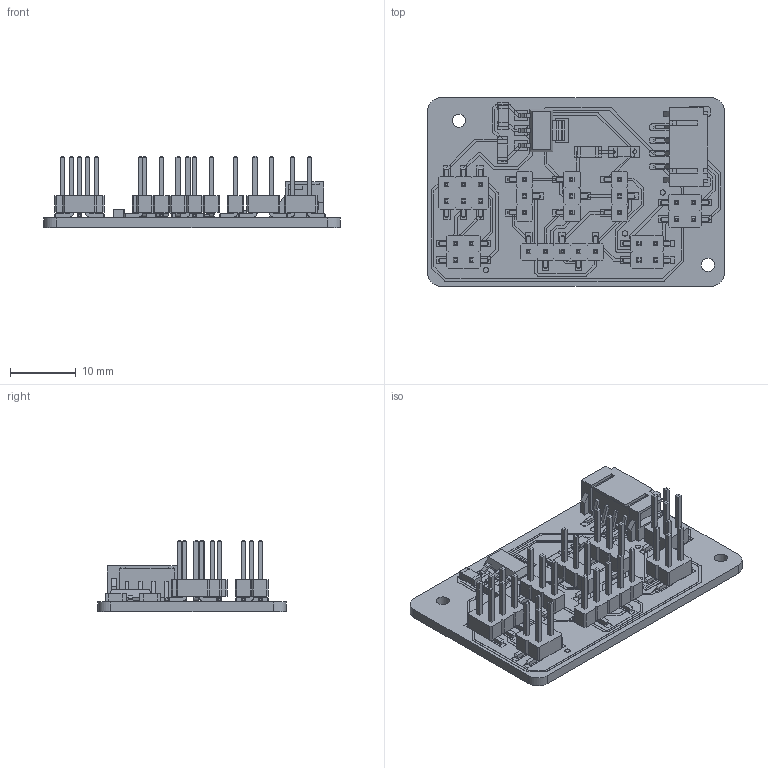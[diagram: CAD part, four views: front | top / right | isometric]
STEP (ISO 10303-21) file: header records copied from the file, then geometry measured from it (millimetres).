
FILE_DESCRIPTION(('KiCad electronic assembly'),'2;1');
FILE_NAME('Final_Project_Top_Board.step','2025-05-19T22:23:51',('Pcbnew' ),('Kicad'),'Open CASCADE STEP processor 7.8', 'KiCad to STEP converter','Unknown');
FILE_SCHEMA(('AUTOMOTIVE_DESIGN { 1 0 10303 214 1 1 1 1 }'));
Length unit declared in the file: millimetre
Products named in the file (24): Final_Project_Top_Board 1; JST - PH - SMD (R) - 4Pin - 2.00mm; R_1206; Ceramic; Contacts; Contacts (Mirror #1); Overcoat; PinHeader_1x03_P2.54mm_Vertical_SMD_Pin1Right; LED-1206; Base; Emmiter; Contact_1; Contact_2; PinHeader_2x02_P2.54mm_Vertical_SMD; PinHeader_2x03_P2.54mm_Vertical_SMD; SOT223; Capacitor-1206; Body; Contact; ContactClone; PinHeader_1x05_P2.54mm_Vertical_SMD_Pin1Left; Final_Project_Top_Board_copper; Final_Project_Top_Board_pad; Final_Project_Top_Board_PCB
Assembly tree (28 placements, depth 3):
  Final_Project_Top_Board 1
    JST - PH - SMD (R) - 4Pin - 2.00mm
    R_1206
      Ceramic
      Contacts
      Contacts (Mirror #1)
      Overcoat
    PinHeader_1x03_P2.54mm_Vertical_SMD_Pin1Right  x3
    LED-1206
      Base
      Emmiter
      Contact_1
      Contact_2
    PinHeader_2x02_P2.54mm_Vertical_SMD  x3
    PinHeader_2x03_P2.54mm_Vertical_SMD
    SOT223
    Capacitor-1206  x2
      Body
      Contact
      ContactClone
    PinHeader_1x05_P2.54mm_Vertical_SMD_Pin1Left
    Final_Project_Top_Board_copper
    Final_Project_Top_Board_pad
    Final_Project_Top_Board_PCB
Bounding box: 45.25 x 28.75 x 10.89 mm (x, y, z)
Volume: 2819.6 mm3; surface area: 5882.8 mm2
Topology: 99 solids, 119 shells, 2084 faces, 5031 edges, 3254 vertices
Faces by surface type: plane 1833, cylinder 211, bspline 40
Full cylindrical faces by diameter (mm): 0.8 x3, 2 x2
Entity records: 56531 total; most frequent: CARTESIAN_POINT 10512, ORIENTED_EDGE 8210, DIRECTION 7599, EDGE_CURVE 4105, LINE 3441, VECTOR 3441, VERTEX_POINT 2674, AXIS2_PLACEMENT_3D 2079
